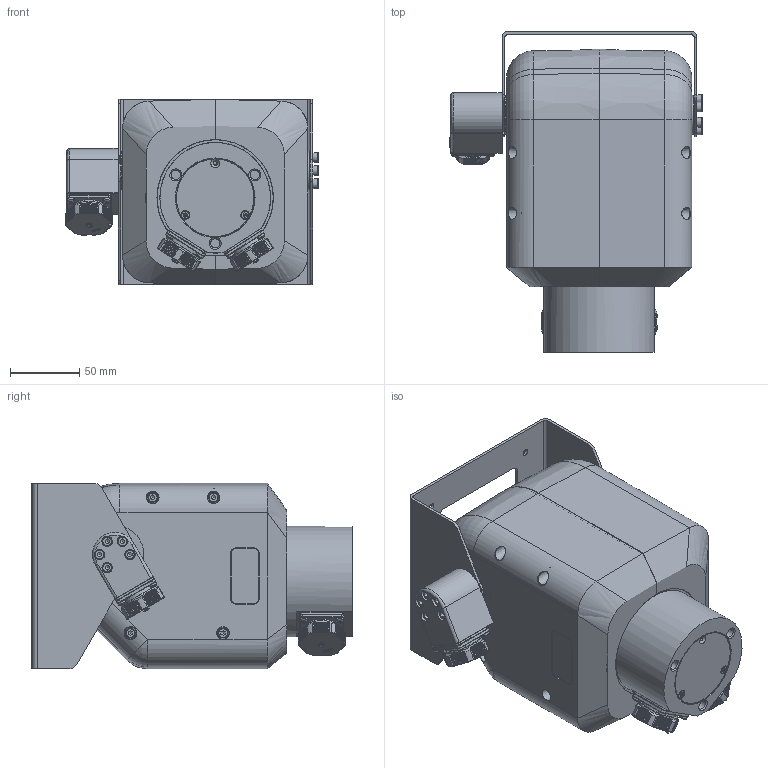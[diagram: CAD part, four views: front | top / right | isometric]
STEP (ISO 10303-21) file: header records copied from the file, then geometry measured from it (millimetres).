
FILE_DESCRIPTION(('STEP AP242'), '1');
FILE_NAME('TL.0010 ﾎﾏﾓ', '', ('UNSPECIFIED'), ('UNSPECIFIED'), 'C3D Converter', 'C3D Toolkit', '');
FILE_SCHEMA(('AP242_MANAGED_MODEL_BASED_3D_ENGINEERING_MIM_LF { 1 0 10303 442 1 1 4 }'));
Length unit declared in the file: millimetre
Products named in the file (24): Сборка скользящего контакта диаметром 22; Опора поворотки; WY24-Z; Крышка опоры; ISO 7046-1  - M3 x 6 - 4.8 - Z; DIN 7985 (Z) - M3x8-Z; DIN 912 - M4 x 16; NSK 7906CV1V; Ось наклона; STN 02 9401 - GP 80 x 100 x 10 NBR_1; Кожух; шайба нейлоновая WS4-1 20968; DIN 913 - M16 x 20; Шильд TL.0008-003; Кронштейн полезной нагрузки; DIN 912 - M4 x 8; Кронштейн угловой кабельный; DIN 912 - M4 x 40
Assembly tree (55 placements, depth 2):
  Сборка скользящего контакта диаметром 22
    Опора поворотки
    WY24-Z
    WY24-Z
    WY24-Z
    Крышка опоры
    ISO 7046-1  - M3 x 6 - 4.8 - Z
    ISO 7046-1  - M3 x 6 - 4.8 - Z
    DIN 7985 (Z) - M3x8-Z  x4
    DIN 7985 (Z) - M3x8-Z  x4
    DIN 7985 (Z) - M3x8-Z  x4
    DIN 912 - M4 x 16  x8
    NSK 7906CV1V  x2
    Ось наклона
    STN 02 9401 - GP 80 x 100 x 10 NBR_1
    Кожух
    шайба нейлоновая WS4-1 20968  x6
    шайба нейлоновая WS4-1 20968  x2
    DIN 913 - M16 x 20
    Шильд TL.0008-003
    Кронштейн полезной нагрузки
    DIN 912 - M4 x 8  x6
    Кронштейн угловой кабельный
    DIN 912 - M4 x 40  x5
Bounding box: 183 x 231.8 x 134 mm (x, y, z)
Volume: 735762.4 mm3; surface area: 406565.2 mm2
Topology: 90 solids, 93 shells, 2801 faces, 7214 edges, 4694 vertices
Faces by surface type: plane 1474, cylinder 666, cone 379, torus 149, bspline 89, sphere 44
Full cylindrical faces by diameter (mm): 1.6 x4, 2 x3, 2.459 x13, 2.5 x3, 2.693 x2, 2.75 x12, 3 x14, 3.12 x3, 3.2 x15, 3.3 x26, 3.4 x3, 4 x19, 4.1 x17, 4.2 x16, 4.46 x3, 4.5 x4, 5.5 x2, 6.7 x3, 6.8 x8, 7 x19, 7.5 x5, 14 x4, 14.02 x2, 16 x3, 17.066 x3, 19 x2, 19.653 x3, 19.9 x3, 23 x1, 24 x3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
Entity records: 107762 total; most frequent: CARTESIAN_POINT 35535, ORIENTED_EDGE 10840, DIRECTION 10031, EDGE_CURVE 5420, VERTEX_POINT 3750, AXIS2_PLACEMENT_3D 3744, EDGE_LOOP 2882, LINE 2543
